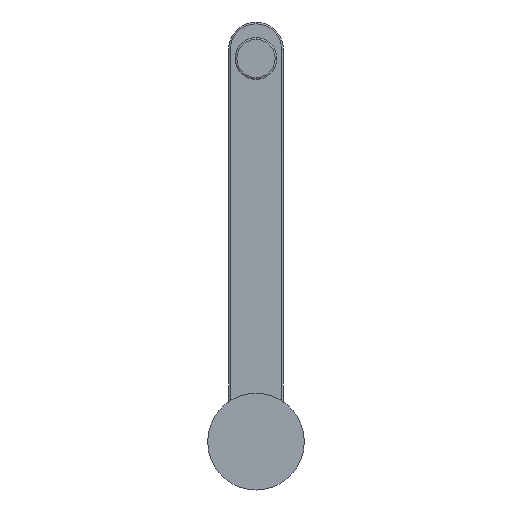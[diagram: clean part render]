
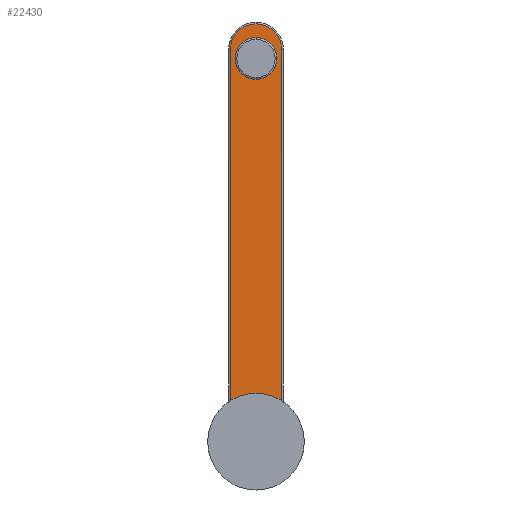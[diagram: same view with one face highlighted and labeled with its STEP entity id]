
A CAD part, front view. The second image highlights one B-rep face of the part: STEP entity #22430.
In plain terms, the highlighted planar face has unit normal (0, -1, 0).
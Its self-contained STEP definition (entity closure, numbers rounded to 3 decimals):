
#51 = FACE_BOUND ( 'NONE', #12660, .T. ) ;
#241 = ORIENTED_EDGE ( 'NONE', *, *, #5578, .F. ) ;
#515 = VERTEX_POINT ( 'NONE', #4284 ) ;
#1184 = DIRECTION ( 'NONE',  ( 0., -1., 0. ) ) ;
#1371 = EDGE_CURVE ( 'NONE', #28984, #25355, #15348, .T. ) ;
#1893 = ORIENTED_EDGE ( 'NONE', *, *, #2562, .F. ) ;
#2562 = EDGE_CURVE ( 'NONE', #26996, #16267, #18256, .T. ) ;
#2641 = DIRECTION ( 'NONE',  ( 0., 0., 1. ) ) ;
#3051 = AXIS2_PLACEMENT_3D ( 'NONE', #14843, #17530, #12450 ) ;
#3142 = AXIS2_PLACEMENT_3D ( 'NONE', #5007, #16971, #2641 ) ;
#3745 = ORIENTED_EDGE ( 'NONE', *, *, #1371, .T. ) ;
#4284 = CARTESIAN_POINT ( 'NONE',  ( 0., 100., 22.5 ) ) ;
#5007 = CARTESIAN_POINT ( 'NONE',  ( 0., 100., 215. ) ) ;
#5529 = DIRECTION ( 'NONE',  ( 0., -1., 0. ) ) ;
#5578 = EDGE_CURVE ( 'NONE', #25884, #515, #11344, .T. ) ;
#7049 = CIRCLE ( 'NONE', #21300, 22.5 ) ;
#8460 = CARTESIAN_POINT ( 'NONE',  ( -14., 100., 215. ) ) ;
#8679 = CARTESIAN_POINT ( 'NONE',  ( 0., 100., 210. ) ) ;
#10689 = DIRECTION ( 'NONE',  ( 0., 0., -1. ) ) ;
#10897 = ORIENTED_EDGE ( 'NONE', *, *, #16879, .T. ) ;
#11344 = CIRCLE ( 'NONE', #23991, 22.5 ) ;
#12034 = EDGE_CURVE ( 'NONE', #25884, #28984, #22890, .T. ) ;
#12450 = DIRECTION ( 'NONE',  ( 0., 0., 1. ) ) ;
#12660 = EDGE_LOOP ( 'NONE', ( #23205, #1893 ) ) ;
#13194 = CARTESIAN_POINT ( 'NONE',  ( 0., 100., 198.525 ) ) ;
#13331 = DIRECTION ( 'NONE',  ( 0., -1., 0. ) ) ;
#13643 = CARTESIAN_POINT ( 'NONE',  ( 14., 100., 0. ) ) ;
#14555 = VECTOR ( 'NONE', #10689, 1000. ) ;
#14714 = CARTESIAN_POINT ( 'NONE',  ( 15., 100., 0. ) ) ;
#14843 = CARTESIAN_POINT ( 'NONE',  ( 0., 100., 215. ) ) ;
#15253 = DIRECTION ( 'NONE',  ( 0., 0., 1. ) ) ;
#15348 = CIRCLE ( 'NONE', #3142, 14. ) ;
#15854 = CARTESIAN_POINT ( 'NONE',  ( 0., 100., 210. ) ) ;
#15948 = EDGE_CURVE ( 'NONE', #515, #30786, #7049, .T. ) ;
#16267 = VERTEX_POINT ( 'NONE', #13194 ) ;
#16879 = EDGE_CURVE ( 'NONE', #25355, #30548, #21402, .T. ) ;
#16969 = EDGE_LOOP ( 'NONE', ( #241, #19494, #3745, #10897, #24031, #28472 ) ) ;
#16971 = DIRECTION ( 'NONE',  ( 0., -1., 0. ) ) ;
#17408 = DIRECTION ( 'NONE',  ( 0., 1., 0. ) ) ;
#17530 = DIRECTION ( 'NONE',  ( 0., -1., 0. ) ) ;
#17549 = EDGE_CURVE ( 'NONE', #16267, #26996, #28613, .T. ) ;
#17642 = CARTESIAN_POINT ( 'NONE',  ( 0., 100., 0. ) ) ;
#17864 = AXIS2_PLACEMENT_3D ( 'NONE', #15854, #13331, #18719 ) ;
#18013 = LINE ( 'NONE', #27932, #14555 ) ;
#18085 = DIRECTION ( 'NONE',  ( 0., 0., 1. ) ) ;
#18256 = CIRCLE ( 'NONE', #19265, 11.475 ) ;
#18719 = DIRECTION ( 'NONE',  ( 0., 0., 1. ) ) ;
#19265 = AXIS2_PLACEMENT_3D ( 'NONE', #8679, #1184, #18085 ) ;
#19494 = ORIENTED_EDGE ( 'NONE', *, *, #12034, .T. ) ;
#21300 = AXIS2_PLACEMENT_3D ( 'NONE', #31110, #30954, #25990 ) ;
#21402 = CIRCLE ( 'NONE', #3051, 14. ) ;
#22430 = ADVANCED_FACE ( 'NONE', ( #51, #26696 ), #26847, .F. ) ;
#22890 = LINE ( 'NONE', #13643, #31600 ) ;
#23205 = ORIENTED_EDGE ( 'NONE', *, *, #17549, .F. ) ;
#23991 = AXIS2_PLACEMENT_3D ( 'NONE', #17642, #5529, #15253 ) ;
#24031 = ORIENTED_EDGE ( 'NONE', *, *, #29199, .T. ) ;
#24608 = DIRECTION ( 'NONE',  ( 0., 0., 1. ) ) ;
#24664 = CARTESIAN_POINT ( 'NONE',  ( 14., 100., 17.614 ) ) ;
#25355 = VERTEX_POINT ( 'NONE', #26639 ) ;
#25884 = VERTEX_POINT ( 'NONE', #24664 ) ;
#25990 = DIRECTION ( 'NONE',  ( 0., 0., 1. ) ) ;
#26639 = CARTESIAN_POINT ( 'NONE',  ( 0., 100., 229. ) ) ;
#26696 = FACE_OUTER_BOUND ( 'NONE', #16969, .T. ) ;
#26847 = PLANE ( 'NONE',  #30417 ) ;
#26996 = VERTEX_POINT ( 'NONE', #31270 ) ;
#27395 = CARTESIAN_POINT ( 'NONE',  ( -14., 100., 17.614 ) ) ;
#27932 = CARTESIAN_POINT ( 'NONE',  ( -14., 100., 0. ) ) ;
#28472 = ORIENTED_EDGE ( 'NONE', *, *, #15948, .F. ) ;
#28613 = CIRCLE ( 'NONE', #17864, 11.475 ) ;
#28984 = VERTEX_POINT ( 'NONE', #29616 ) ;
#29199 = EDGE_CURVE ( 'NONE', #30548, #30786, #18013, .T. ) ;
#29616 = CARTESIAN_POINT ( 'NONE',  ( 14., 100., 215. ) ) ;
#30417 = AXIS2_PLACEMENT_3D ( 'NONE', #14714, #17408, #24608 ) ;
#30548 = VERTEX_POINT ( 'NONE', #8460 ) ;
#30732 = DIRECTION ( 'NONE',  ( 0., 0., 1. ) ) ;
#30786 = VERTEX_POINT ( 'NONE', #27395 ) ;
#30954 = DIRECTION ( 'NONE',  ( 0., -1., 0. ) ) ;
#31110 = CARTESIAN_POINT ( 'NONE',  ( 0., 100., 0. ) ) ;
#31270 = CARTESIAN_POINT ( 'NONE',  ( 0., 100., 221.475 ) ) ;
#31600 = VECTOR ( 'NONE', #30732, 1000. ) ;
